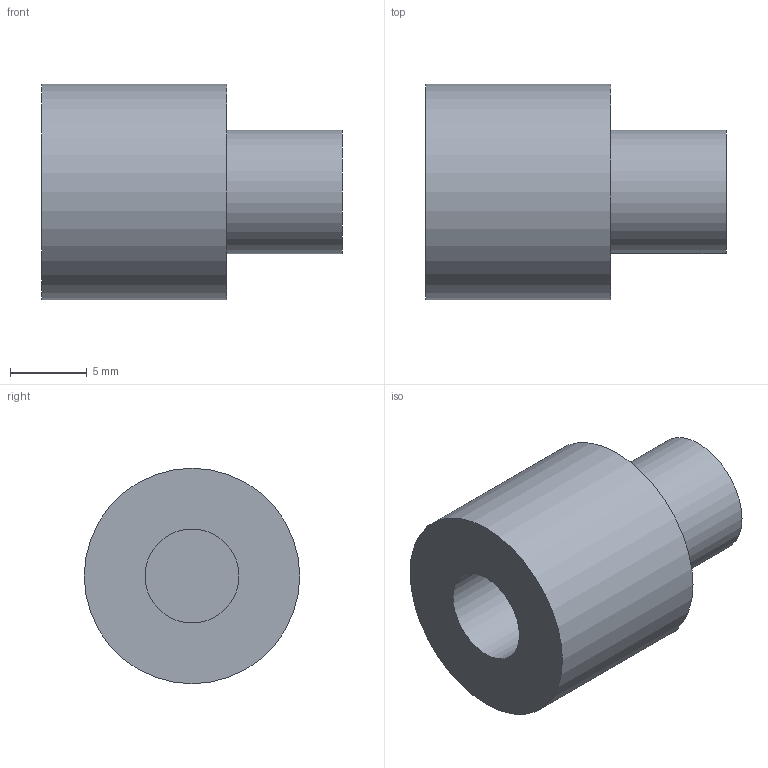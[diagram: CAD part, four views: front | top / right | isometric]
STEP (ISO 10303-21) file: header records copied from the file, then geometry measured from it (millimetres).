
FILE_DESCRIPTION(('Open CASCADE Model'),'2;1');
FILE_NAME('Open CASCADE Shape Model','2026-10-17T22:10:42',('Author'),( 'Open CASCADE'),'Open CASCADE STEP processor 7.9','Open CASCADE 7.9' ,'Unknown');
FILE_SCHEMA(('AUTOMOTIVE_DESIGN { 1 0 10303 214 1 1 1 1 }'));
Length unit declared in the file: millimetre
Products named in the file (1): Open CASCADE STEP translator 7.9 13
Bounding box: 19.5 x 14 x 14 mm (x, y, z)
Volume: 1858.9 mm3; surface area: 1263.7 mm2
Topology: 1 solids, 1 shells, 7 faces, 9 edges, 6 vertices
Faces by surface type: plane 4, cylinder 3
Full cylindrical faces by diameter (mm): 6.1 x1, 8 x1, 14 x1
Entity records: 279 total; most frequent: DIRECTION 48, CARTESIAN_POINT 47, ORIENTED_EDGE 18, PCURVE 18, DEFINITIONAL_REPRESENTATION 18, LINE 15, VECTOR 15, AXIS2_PLACEMENT_3D 14
